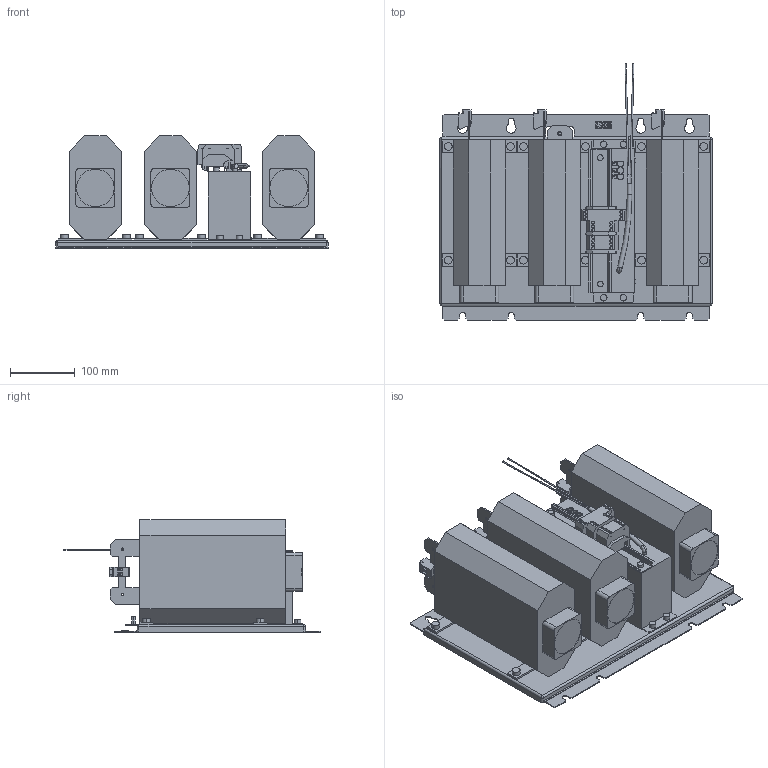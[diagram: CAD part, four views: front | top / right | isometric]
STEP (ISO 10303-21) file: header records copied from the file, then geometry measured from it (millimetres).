
FILE_DESCRIPTION (( 'STEP AP214' ), '1' );
FILE_NAME ('0LZ1I05-1001.STEP', '2023-09-26T08:46:26', ( '' ), ( '' ), 'SwSTEP 2.0', 'SolidWorks 2022', '' );
FILE_SCHEMA (( 'AUTOMOTIVE_DESIGN' ));
Length unit declared in the file: millimetre
Products named in the file (1): 0LZ1I05-1001
Bounding box: 420 x 395.33 x 173.5 mm (x, y, z)
Volume: 11386076.5 mm3; surface area: 783082.7 mm2
Topology: 1 solids, 1 shells, 973 faces, 2621 edges, 1714 vertices
Faces by surface type: plane 633, cylinder 275, bspline 44, cone 21
Entity records: 32170 total; most frequent: CARTESIAN_POINT 7321, ORIENTED_EDGE 5236, DIRECTION 4943, EDGE_CURVE 2618, LINE 1855, VECTOR 1855, VERTEX_POINT 1714, AXIS2_PLACEMENT_3D 1544
